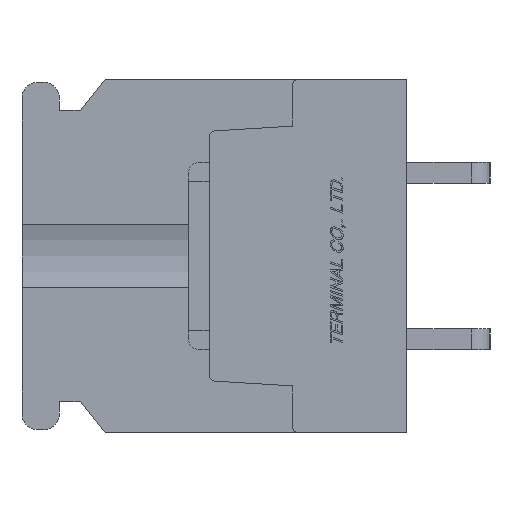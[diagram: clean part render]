
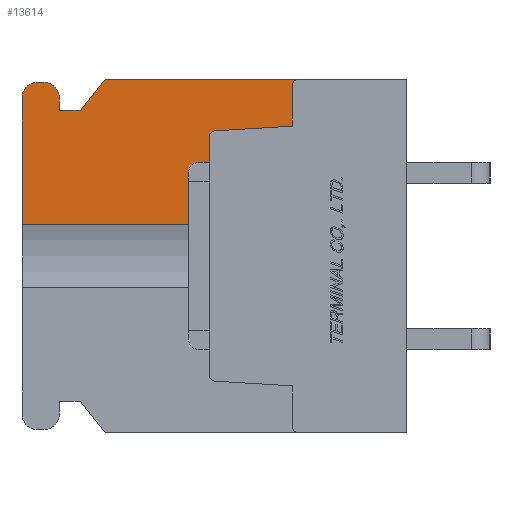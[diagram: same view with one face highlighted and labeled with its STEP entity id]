
A CAD part, left-side view. The second image highlights one B-rep face of the part: STEP entity #13614.
In plain terms, the highlighted planar face has unit normal (-1, 0, 0).
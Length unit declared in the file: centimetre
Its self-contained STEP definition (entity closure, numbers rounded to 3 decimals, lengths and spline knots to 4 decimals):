
#1440=VECTOR('',#15879,1.);
#1442=VECTOR('',#15882,1.);
#1444=VECTOR('',#15889,1.);
#1445=VECTOR('',#15890,1.);
#1446=VECTOR('',#15891,1.);
#1447=VECTOR('',#15892,1.);
#1448=VECTOR('',#15893,1.);
#1449=VECTOR('',#15896,1.);
#1450=VECTOR('',#15899,1.);
#1451=VECTOR('',#15900,1.);
#2957=LINE('',#20769,#1440);
#2959=LINE('',#20773,#1442);
#2961=LINE('',#20779,#1444);
#2962=LINE('',#20781,#1445);
#2963=LINE('',#20783,#1446);
#2964=LINE('',#20785,#1447);
#2965=LINE('',#20787,#1448);
#2966=LINE('',#20791,#1449);
#2967=LINE('',#20795,#1450);
#2968=LINE('',#20797,#1451);
#4454=VERTEX_POINT('',#20762);
#4455=VERTEX_POINT('',#20764);
#4456=VERTEX_POINT('',#20768);
#4457=VERTEX_POINT('',#20772);
#4458=VERTEX_POINT('',#20776);
#4459=VERTEX_POINT('',#20780);
#4460=VERTEX_POINT('',#20782);
#4461=VERTEX_POINT('',#20784);
#4462=VERTEX_POINT('',#20786);
#4463=VERTEX_POINT('',#20788);
#4464=VERTEX_POINT('',#20790);
#4465=VERTEX_POINT('',#20792);
#4466=VERTEX_POINT('',#20794);
#4467=VERTEX_POINT('',#20796);
#5069=CIRCLE('',#22966,0.03);
#5070=CIRCLE('',#22970,0.03);
#5071=CIRCLE('',#22972,0.075);
#5072=CIRCLE('',#22973,0.075);
#6480=EDGE_CURVE('',#4455,#4454,#5069,.T.);
#6483=EDGE_CURVE('',#4454,#4456,#2957,.T.);
#6485=EDGE_CURVE('',#4456,#4457,#2959,.T.);
#6487=EDGE_CURVE('',#4457,#4458,#5070,.T.);
#6488=EDGE_CURVE('',#4459,#4455,#2961,.T.);
#6489=EDGE_CURVE('',#4460,#4458,#2962,.T.);
#6490=EDGE_CURVE('',#4461,#4460,#2963,.T.);
#6491=EDGE_CURVE('',#4462,#4461,#2964,.T.);
#6492=EDGE_CURVE('',#4463,#4462,#2965,.T.);
#6493=EDGE_CURVE('',#4464,#4463,#5071,.T.);
#6494=EDGE_CURVE('',#4465,#4464,#2966,.T.);
#6495=EDGE_CURVE('',#4466,#4465,#5072,.T.);
#6496=EDGE_CURVE('',#4467,#4466,#2967,.T.);
#6497=EDGE_CURVE('',#4467,#4459,#2968,.T.);
#9691=ORIENTED_EDGE('',*,*,#6488,.T.);
#9692=ORIENTED_EDGE('',*,*,#6480,.T.);
#9693=ORIENTED_EDGE('',*,*,#6483,.T.);
#9694=ORIENTED_EDGE('',*,*,#6485,.T.);
#9695=ORIENTED_EDGE('',*,*,#6487,.T.);
#9696=ORIENTED_EDGE('',*,*,#6489,.F.);
#9697=ORIENTED_EDGE('',*,*,#6490,.F.);
#9698=ORIENTED_EDGE('',*,*,#6491,.F.);
#9699=ORIENTED_EDGE('',*,*,#6492,.F.);
#9700=ORIENTED_EDGE('',*,*,#6493,.F.);
#9701=ORIENTED_EDGE('',*,*,#6494,.F.);
#9702=ORIENTED_EDGE('',*,*,#6495,.F.);
#9703=ORIENTED_EDGE('',*,*,#6496,.F.);
#9704=ORIENTED_EDGE('',*,*,#6497,.T.);
#11956=EDGE_LOOP('',(#9691,#9692,#9693,#9694,#9695,#9696,#9697,#9698,#9699,
#9700,#9701,#9702,#9703,#9704));
#12812=FACE_BOUND('',#11956,.T.);
#13614=ADVANCED_FACE('',(#12812),#14241,.F.);
#14241=PLANE('',#22971);
#15874=DIRECTION('',(1.,0.,0.));
#15875=DIRECTION('',(0.,0.,0.03));
#15879=DIRECTION('',(0.,-0.998,0.061));
#15882=DIRECTION('',(0.,0.,1.));
#15886=DIRECTION('',(1.,0.,0.));
#15887=DIRECTION('',(0.,0.,0.03));
#15888=DIRECTION('',(1.,0.,0.));
#15889=DIRECTION('',(0.,0.,1.));
#15890=DIRECTION('',(0.,-1.,0.));
#15891=DIRECTION('',(0.,-0.625,0.781));
#15892=DIRECTION('',(0.,-1.,0.));
#15893=DIRECTION('',(0.,0.,-1.));
#15894=DIRECTION('',(1.,0.,0.));
#15895=DIRECTION('',(0.,0.,-0.075));
#15896=DIRECTION('',(0.,-1.,0.));
#15897=DIRECTION('',(1.,0.,0.));
#15898=DIRECTION('',(0.,0.,-0.075));
#15899=DIRECTION('',(0.,0.,1.));
#15900=DIRECTION('',(0.,-1.,0.));
#20762=CARTESIAN_POINT('',(-1.1,0.9218,0.6017));
#20763=CARTESIAN_POINT('',(-1.1,0.92,0.5718));
#20764=CARTESIAN_POINT('',(-1.1,0.95,0.5718));
#20768=CARTESIAN_POINT('',(-1.1,0.55,0.6245));
#20769=CARTESIAN_POINT('',(-1.1,0.859,0.6056));
#20772=CARTESIAN_POINT('',(-1.1,0.55,0.82));
#20773=CARTESIAN_POINT('',(-1.1,0.55,0.3611));
#20776=CARTESIAN_POINT('',(-1.1,0.52,0.85));
#20777=CARTESIAN_POINT('',(-1.1,0.52,0.82));
#20778=CARTESIAN_POINT('',(-1.1,0.9454,0.));
#20779=CARTESIAN_POINT('',(-1.1,0.95,0.));
#20780=CARTESIAN_POINT('',(-1.1,0.95,0.1521));
#20781=CARTESIAN_POINT('',(-1.1,1.45,0.85));
#20782=CARTESIAN_POINT('',(-1.1,1.45,0.85));
#20783=CARTESIAN_POINT('',(-1.1,1.57,0.7));
#20784=CARTESIAN_POINT('',(-1.1,1.57,0.7));
#20785=CARTESIAN_POINT('',(-1.1,1.67,0.7));
#20786=CARTESIAN_POINT('',(-1.1,1.67,0.7));
#20787=CARTESIAN_POINT('',(-1.1,1.67,0.76));
#20788=CARTESIAN_POINT('',(-1.1,1.67,0.76));
#20789=CARTESIAN_POINT('',(-1.1,1.745,0.76));
#20790=CARTESIAN_POINT('',(-1.1,1.745,0.835));
#20791=CARTESIAN_POINT('',(-1.1,1.775,0.835));
#20792=CARTESIAN_POINT('',(-1.1,1.775,0.835));
#20793=CARTESIAN_POINT('',(-1.1,1.775,0.76));
#20794=CARTESIAN_POINT('',(-1.1,1.85,0.76));
#20795=CARTESIAN_POINT('',(-1.1,1.85,-0.76));
#20796=CARTESIAN_POINT('',(-1.1,1.85,0.1521));
#20797=CARTESIAN_POINT('',(-1.1,1.4,0.1521));
#22966=AXIS2_PLACEMENT_3D('',#20763,#15874,#15875);
#22970=AXIS2_PLACEMENT_3D('',#20777,#15886,#15887);
#22971=AXIS2_PLACEMENT_3D('',#20778,#15888,$);
#22972=AXIS2_PLACEMENT_3D('',#20789,#15894,#15895);
#22973=AXIS2_PLACEMENT_3D('',#20793,#15897,#15898);
